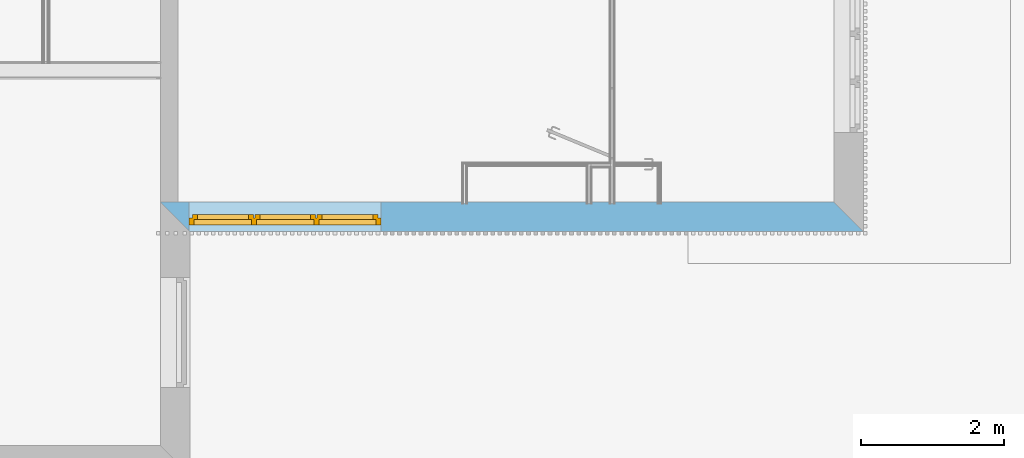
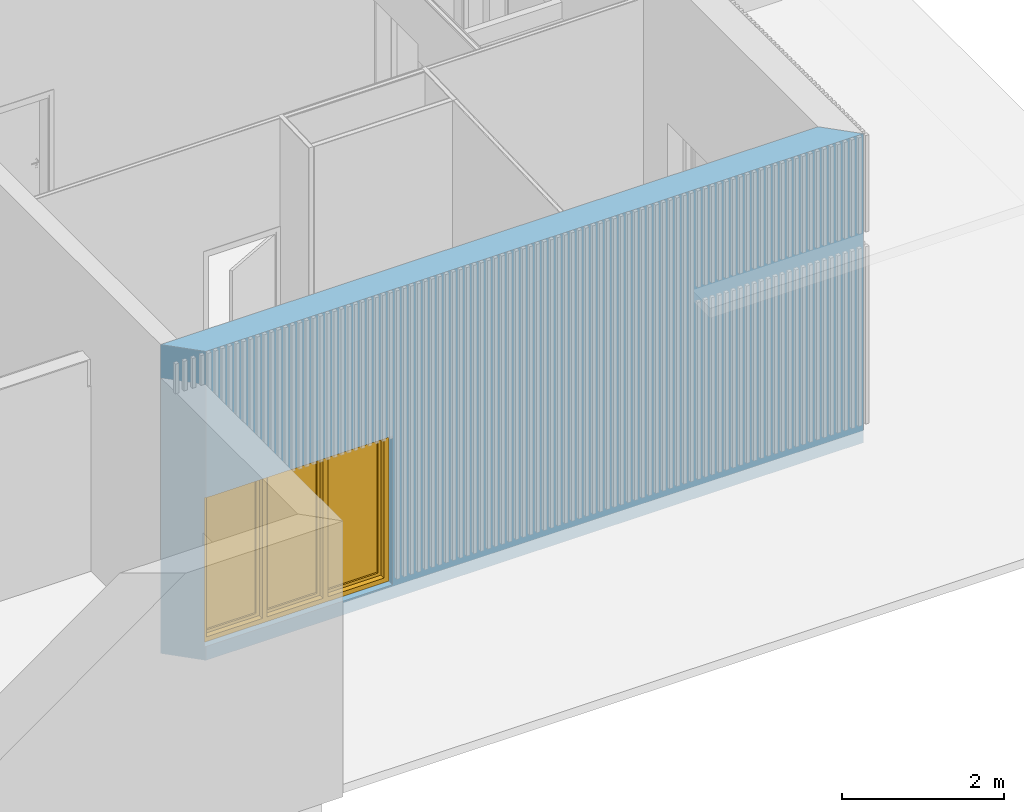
# One storey, part 8 of 34: 1 window, 1 opening, plus 1 element that does not belong to this part.
"""IFC2X3 building model written with IfcOpenShell, lengths in metres."""

from ifc_helpers import new_model, entity, si_unit, converted_unit, derived_unit, money_unit, direction, frame, origin_with_axes, origin_2d_with_axis, place, context, subcontext, project, spatial, polyline, rectangle, outline, extrude, open_shell, faceted_brep, surface_model, material, layer, layer_set, layer_usage, type_object, element, fill, save


model = new_model("IFC2X3")

# Units and contexts
model_context = context("Model", 3, precision=1e-05, world=origin_with_axes(), true_north=direction((0.0, 1.0)))
body_context = subcontext(model_context, "Body", "Model", "MODEL_VIEW")
ifc_project = project(units=[si_unit("LENGTHUNIT", "METRE"), si_unit("AREAUNIT", "SQUARE_METRE"), si_unit("VOLUMEUNIT", "CUBIC_METRE"), converted_unit("PLANEANGLEUNIT", "DEGREE", entity("IfcPlaneAngleMeasure", 0.0174532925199), si_unit("PLANEANGLEUNIT", "RADIAN"), dimensions=[0, 0, 0, 0, 0, 0, 0]), money_unit("CHF"), converted_unit("TIMEUNIT", "Year", entity("IfcTimeMeasure", 31556926.0), si_unit("TIMEUNIT", "SECOND"), dimensions=[0, 0, 1, 0, 0, 0, 0]), si_unit("MASSUNIT", "GRAM", prefix="KILO"), si_unit("THERMODYNAMICTEMPERATUREUNIT", "DEGREE_CELSIUS"), si_unit("LUMINOUSINTENSITYUNIT", "LUMEN"), si_unit("ENERGYUNIT", "JOULE", prefix="MEGA"), derived_unit("THERMALCONDUCTANCEUNIT", [(si_unit("POWERUNIT", "WATT"), 1), (si_unit("LENGTHUNIT", "METRE"), -1), (si_unit("THERMODYNAMICTEMPERATUREUNIT", "KELVIN"), -1)]), derived_unit("SPECIFICHEATCAPACITYUNIT", [(si_unit("ENERGYUNIT", "JOULE"), 1), (si_unit("MASSUNIT", "GRAM", prefix="KILO"), -1), (si_unit("THERMODYNAMICTEMPERATUREUNIT", "KELVIN"), -1)]), derived_unit("MASSDENSITYUNIT", [(si_unit("MASSUNIT", "GRAM", prefix="KILO"), 1), (si_unit("VOLUMEUNIT", "CUBIC_METRE"), -1)])], contexts=[model_context])

# Site, building, storey
site_placement = place(None, origin_with_axes())
site = spatial("IfcSite", under=ifc_project, at=site_placement, Name="Site", CompositionType="ELEMENT")
building_placement = place(site_placement, origin_with_axes())
building = spatial("IfcBuilding", under=site, at=building_placement, Name="Bâtiment", CompositionType="ELEMENT")
storey_placement = place(building_placement, origin_with_axes())
storey = spatial("IfcBuildingStorey", under=building, at=storey_placement, Name="Rez-de-chaussée", CompositionType="ELEMENT", Elevation=0.0)

# Wall, opening, window
ifc_material_1 = material(Name="Finition int - Enduit minéral")
ifc_layer_1 = layer(ifc_material_1, 0.01, ventilated="UNKNOWN")
ifc_material_2 = material(Name="Isolation - Fibres de bois")
ifc_layer_2 = layer(ifc_material_2, 0.18, ventilated="UNKNOWN")
ifc_material_3 = material(Name="Béton armé (Coulé)")
ifc_layer_3 = layer(ifc_material_3, 0.2, ventilated="UNKNOWN")
ifc_material_4 = material(Name="Finition int - Enduit plâtre")
ifc_layer_4 = layer(ifc_material_4, 0.02, ventilated="UNKNOWN")
ifc_layer_set = layer_set([ifc_layer_1, ifc_layer_2, ifc_layer_3, ifc_layer_4], Name="Mur 20cm + iso 18 + enduit")
ifc_layer_usage = layer_usage(ifc_layer_set, "AXIS2", "NEGATIVE", 0.29)
wall_type = type_object("IfcWallType", Name="Mur 20cm + iso 18 + enduit  410", PredefinedType="NOTDEFINED")
wall_placement = place(storey_placement, frame((33.7494697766, 6.46012566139, -0.21), z_axis=(0.0, 0.0, 1.0), x_axis=(-1.0, 0.0, 0.0)))
wall = element("IfcWallStandardCase", 1, at=wall_placement, inside=storey, type_object=wall_type, material=ifc_layer_usage, Name="Mur ext 20+18isolant", context=body_context, shape_type="SweptSolid", body=[
    extrude(outline(polyline([(0.12, -0.12), (9.52, -0.12), (9.11, 0.29), (-0.29, 0.29), (0.12, -0.12)])), origin_with_axes(), (0.0, 0.0, 1.0), 4.67),
])
opening_placement = place(wall_placement, frame((7.78, 0.0, 0.21), z_axis=(0.0, 0.0, 1.0), x_axis=(1.0, 0.0, 0.0)))
opening = element("IfcOpeningElement", 2, at=opening_placement, cuts=wall, Name="FENETRE-005", context=body_context, shape_type="SweptSolid", body=[
    extrude(rectangle(XDim=2.68, YDim=2.25, at=origin_2d_with_axis()), frame((0.0, 0.2, 1.125), z_axis=(0.0, 1.0, 0.0), x_axis=(-1.0, 0.0, 0.0)), (0.0, 0.0, -1.0), 0.73),
    extrude(rectangle(XDim=2.68, YDim=2.25, at=origin_2d_with_axis()), frame((0.0, 0.2, 1.125), z_axis=(0.0, -1.0, 0.0), x_axis=(-1.0, 0.0, 0.0)), (0.0, 0.0, -1.0), 0.5),
])
window_style = type_object("IfcWindowStyle", Name="Fenêtre horizontale à châssis multiples 26", ConstructionType="NOTDEFINED", OperationType="TRIPLE_PANEL_VERTICAL", ParameterTakesPrecedence=False, Sizeable=False)
window_placement = place(opening_placement, frame((1.34, 0.0, 0.0), z_axis=(0.0, 0.0, 1.0), x_axis=(-1.0, 0.0, 0.0)))
window = element("IfcWindow", 3, at=window_placement, inside=storey, type_object=window_style, Name="FENETRE-005", ObjectType="WINDOW", OverallHeight=2.25, OverallWidth=2.68, context=body_context, shape_type="SurfaceModel", body=[
    faceted_brep([(0.045, -0.1, 2.18), (0.0, -0.1, 2.18), (0.0, -0.2, 2.18), (0.07, -0.2, 2.18), (0.07, -0.125, 2.18), (0.045, -0.125, 2.18), (0.045, -0.1, 0.07), (0.0, -0.1, 0.07), (0.0, -0.2, 0.07), (0.07, -0.2, 0.07), (0.07, -0.125, 0.07), (0.045, -0.125, 0.07)], [[[0, 1, 2, 3, 4, 5]], [[6, 7, 1, 0]], [[1, 7, 8, 2]], [[2, 8, 9, 3]], [[4, 3, 9, 10]], [[10, 11, 5, 4]], [[5, 11, 6, 0]], [[11, 10, 9, 8, 7, 6]]]),
    faceted_brep([(2.61, -0.125, 2.18), (2.61, -0.2, 2.18), (2.68, -0.2, 2.18), (2.68, -0.1, 2.18), (2.635, -0.1, 2.18), (2.635, -0.125, 2.18), (2.61, -0.125, 0.07), (2.61, -0.2, 0.07), (2.68, -0.2, 0.07), (2.68, -0.1, 0.07), (2.635, -0.1, 0.07), (2.635, -0.125, 0.07)], [[[0, 1, 2, 3, 4, 5]], [[6, 7, 1, 0]], [[8, 2, 1, 7]], [[9, 3, 2, 8]], [[4, 3, 9, 10]], [[10, 11, 5, 4]], [[5, 11, 6, 0]], [[11, 10, 9, 8, 7, 6]]]),
    faceted_brep([(0.915, -0.1, 2.18), (0.895, -0.1, 2.18), (0.895, -0.1, 2.205), (0.045, -0.1, 2.205), (0.045, -0.1, 2.18), (0.0, -0.1, 2.18), (0.0, -0.1, 2.25), (2.68, -0.1, 2.25), (2.68, -0.1, 2.18), (2.635, -0.1, 2.18), (2.635, -0.1, 2.205), (1.785, -0.1, 2.205), (1.785, -0.1, 2.18), (1.765, -0.1, 2.18), (1.765, -0.1, 2.205), (0.915, -0.1, 2.205), (0.915, -0.125, 2.18), (0.94, -0.125, 2.18), (0.94, -0.2, 2.18), (0.87, -0.2, 2.18), (0.87, -0.125, 2.18), (0.895, -0.125, 2.18), (0.895, -0.125, 2.205), (0.045, -0.125, 2.205), (0.045, -0.125, 2.18), (0.07, -0.125, 2.18), (0.07, -0.2, 2.18), (0.0, -0.2, 2.18), (0.0, -0.2, 2.25), (2.68, -0.2, 2.25), (2.68, -0.2, 2.18), (2.635, -0.125, 2.18), (2.61, -0.2, 2.18), (2.61, -0.125, 2.18), (2.635, -0.125, 2.205), (1.785, -0.125, 2.205), (1.785, -0.125, 2.18), (1.765, -0.125, 2.18), (1.81, -0.125, 2.18), (1.81, -0.2, 2.18), (1.74, -0.2, 2.18), (1.74, -0.125, 2.18), (1.765, -0.125, 2.205), (0.915, -0.125, 2.205)], [[[0, 1, 2, 3, 4, 5, 6, 7, 8, 9, 10, 11, 12, 13, 14, 15]], [[16, 17, 18, 19, 20, 21, 1, 0]], [[1, 21, 22, 2]], [[2, 22, 23, 3]], [[3, 23, 24, 4]], [[24, 25, 26, 27, 5, 4]], [[6, 5, 27, 28]], [[7, 6, 28, 29]], [[8, 7, 29, 30]], [[31, 9, 8, 30, 32, 33]], [[9, 31, 34, 10]], [[10, 34, 35, 11]], [[11, 35, 36, 12]], [[37, 13, 12, 36, 38, 39, 40, 41]], [[13, 37, 42, 14]], [[14, 42, 43, 15]], [[15, 43, 16, 0]], [[41, 17, 16, 43, 42, 37]], [[41, 40, 18, 17]], [[30, 29, 28, 27, 26, 19, 18, 40, 39, 32]], [[20, 19, 26, 25]], [[20, 25, 24, 23, 22, 21]], [[33, 32, 39, 38]], [[33, 38, 36, 35, 34, 31]]]),
    faceted_brep([(1.74, -0.125, 0.07), (1.74, -0.2, 0.07), (1.81, -0.2, 0.07), (1.81, -0.125, 0.07), (1.785, -0.125, 0.07), (1.785, -0.1, 0.07), (1.765, -0.1, 0.07), (1.765, -0.125, 0.07), (0.94, -0.125, 0.07), (0.94, -0.2, 0.07), (0.87, -0.2, 0.07), (0.07, -0.2, 0.07), (0.0, -0.2, 0.07), (0.0, -0.2, 0.0), (2.68, -0.2, 0.0), (2.68, -0.2, 0.07), (2.61, -0.2, 0.07), (2.61, -0.125, 0.07), (2.635, -0.125, 0.07), (2.635, -0.125, 0.045), (1.785, -0.125, 0.045), (1.785, -0.1, 0.045), (0.915, -0.1, 0.045), (1.765, -0.1, 0.045), (2.635, -0.1, 0.045), (2.635, -0.1, 0.07), (2.68, -0.1, 0.07), (2.68, -0.1, 0.0), (0.0, -0.1, 0.0), (0.0, -0.1, 0.07), (0.045, -0.1, 0.07), (0.045, -0.1, 0.045), (0.895, -0.1, 0.045), (0.895, -0.1, 0.07), (0.915, -0.1, 0.07), (1.765, -0.125, 0.045), (0.915, -0.125, 0.045), (0.915, -0.125, 0.07), (0.895, -0.125, 0.07), (0.87, -0.125, 0.07), (0.07, -0.125, 0.07), (0.045, -0.125, 0.07), (0.045, -0.125, 0.045), (0.895, -0.125, 0.045)], [[[0, 1, 2, 3, 4, 5, 6, 7]], [[8, 9, 1, 0]], [[1, 9, 10, 11, 12, 13, 14, 15, 16, 2]], [[3, 2, 16, 17]], [[18, 19, 20, 4, 3, 17]], [[4, 20, 21, 5]], [[22, 23, 6, 5, 21, 24, 25, 26, 27, 28, 29, 30, 31, 32, 33, 34]], [[23, 35, 7, 6]], [[7, 35, 36, 37, 8, 0]], [[37, 34, 33, 38, 39, 10, 9, 8]], [[40, 11, 10, 39]], [[41, 30, 29, 12, 11, 40]], [[29, 28, 13, 12]], [[28, 27, 14, 13]], [[27, 26, 15, 14]], [[17, 16, 15, 26, 25, 18]], [[24, 19, 18, 25]], [[21, 20, 19, 24]], [[22, 36, 35, 23]], [[41, 42, 31, 30]], [[31, 42, 43, 32]], [[32, 43, 38, 33]], [[37, 36, 22, 34]], [[38, 43, 42, 41, 40, 39]]]),
    faceted_brep([(0.915, -0.1, 2.18), (0.895, -0.1, 2.18), (0.895, -0.125, 2.18), (0.87, -0.125, 2.18), (0.87, -0.2, 2.18), (0.94, -0.2, 2.18), (0.94, -0.125, 2.18), (0.915, -0.125, 2.18), (0.915, -0.1, 0.07), (0.895, -0.1, 0.07), (0.895, -0.125, 0.07), (0.87, -0.125, 0.07), (0.87, -0.2, 0.07), (0.94, -0.2, 0.07), (0.94, -0.125, 0.07), (0.915, -0.125, 0.07)], [[[0, 1, 2, 3, 4, 5, 6, 7]], [[8, 9, 1, 0]], [[9, 10, 2, 1]], [[2, 10, 11, 3]], [[11, 12, 4, 3]], [[5, 4, 12, 13]], [[6, 5, 13, 14]], [[14, 15, 7, 6]], [[7, 15, 8, 0]], [[15, 14, 13, 12, 11, 10, 9, 8]]]),
    faceted_brep([(1.74, -0.125, 2.18), (1.74, -0.2, 2.18), (1.81, -0.2, 2.18), (1.81, -0.125, 2.18), (1.785, -0.125, 2.18), (1.785, -0.1, 2.18), (1.765, -0.1, 2.18), (1.765, -0.125, 2.18), (1.74, -0.125, 0.07), (1.74, -0.2, 0.07), (1.81, -0.2, 0.07), (1.81, -0.125, 0.07), (1.785, -0.125, 0.07), (1.785, -0.1, 0.07), (1.765, -0.1, 0.07), (1.765, -0.125, 0.07)], [[[0, 1, 2, 3, 4, 5, 6, 7]], [[8, 9, 1, 0]], [[2, 1, 9, 10]], [[3, 2, 10, 11]], [[11, 12, 4, 3]], [[4, 12, 13, 5]], [[6, 5, 13, 14]], [[14, 15, 7, 6]], [[7, 15, 8, 0]], [[15, 14, 13, 12, 11, 10, 9, 8]]]),
    faceted_brep([(0.115, -0.125, 2.135), (0.115, -0.055, 2.135), (0.045, -0.055, 2.135), (0.045, -0.125, 2.135), (0.115, -0.125, 0.115), (0.115, -0.055, 0.115), (0.045, -0.055, 0.115), (0.045, -0.125, 0.115)], [[[0, 1, 2, 3]], [[4, 5, 1, 0]], [[1, 5, 6, 2]], [[3, 2, 6, 7]], [[0, 3, 7, 4]], [[7, 6, 5, 4]]]),
    faceted_brep([(0.825, -0.125, 0.115), (0.825, -0.055, 0.115), (0.895, -0.055, 0.115), (0.895, -0.125, 0.115), (0.825, -0.125, 2.135), (0.825, -0.055, 2.135), (0.895, -0.055, 2.135), (0.895, -0.125, 2.135)], [[[0, 1, 2, 3]], [[4, 5, 1, 0]], [[1, 5, 6, 2]], [[3, 2, 6, 7]], [[0, 3, 7, 4]], [[7, 6, 5, 4]]]),
    faceted_brep([(0.895, -0.125, 0.045), (0.895, -0.055, 0.045), (0.895, -0.055, 0.115), (0.895, -0.125, 0.115), (0.045, -0.125, 0.045), (0.045, -0.055, 0.045), (0.045, -0.055, 0.115), (0.115, -0.055, 0.115), (0.825, -0.055, 0.115), (0.825, -0.125, 0.115), (0.115, -0.125, 0.115), (0.045, -0.125, 0.115)], [[[0, 1, 2, 3]], [[4, 5, 1, 0]], [[1, 5, 6, 7, 8, 2]], [[3, 2, 8, 9]], [[0, 3, 9, 10, 11, 4]], [[11, 6, 5, 4]], [[10, 7, 6, 11]], [[9, 8, 7, 10]]]),
    faceted_brep([(0.045, -0.125, 2.205), (0.045, -0.055, 2.205), (0.045, -0.055, 2.135), (0.045, -0.125, 2.135), (0.895, -0.125, 2.205), (0.895, -0.055, 2.205), (0.895, -0.055, 2.135), (0.825, -0.055, 2.135), (0.115, -0.055, 2.135), (0.115, -0.125, 2.135), (0.825, -0.125, 2.135), (0.895, -0.125, 2.135)], [[[0, 1, 2, 3]], [[4, 5, 1, 0]], [[1, 5, 6, 7, 8, 2]], [[3, 2, 8, 9]], [[0, 3, 9, 10, 11, 4]], [[11, 6, 5, 4]], [[10, 7, 6, 11]], [[9, 8, 7, 10]]]),
    surface_model("IfcShellBasedSurfaceModel", [(0.115, -0.1, 0.115), (0.825, -0.1, 0.115), (0.825, -0.1, 2.135), (0.115, -0.1, 2.135)], [open_shell([[[0, 1, 2, 3]]])]),
    surface_model("IfcShellBasedSurfaceModel", [(0.115, -0.08, 0.115), (0.115, -0.08, 2.135), (0.825, -0.08, 2.135), (0.825, -0.08, 0.115)], [open_shell([[[0, 1, 2, 3]]])]),
    faceted_brep([(0.985, -0.125, 2.135), (0.985, -0.055, 2.135), (0.915, -0.055, 2.135), (0.915, -0.125, 2.135), (0.985, -0.125, 0.115), (0.985, -0.055, 0.115), (0.915, -0.055, 0.115), (0.915, -0.125, 0.115)], [[[0, 1, 2, 3]], [[4, 5, 1, 0]], [[1, 5, 6, 2]], [[3, 2, 6, 7]], [[0, 3, 7, 4]], [[7, 6, 5, 4]]]),
    faceted_brep([(1.695, -0.125, 0.115), (1.695, -0.055, 0.115), (1.765, -0.055, 0.115), (1.765, -0.125, 0.115), (1.695, -0.125, 2.135), (1.695, -0.055, 2.135), (1.765, -0.055, 2.135), (1.765, -0.125, 2.135)], [[[0, 1, 2, 3]], [[4, 5, 1, 0]], [[1, 5, 6, 2]], [[3, 2, 6, 7]], [[0, 3, 7, 4]], [[7, 6, 5, 4]]]),
    faceted_brep([(1.765, -0.125, 0.045), (1.765, -0.055, 0.045), (1.765, -0.055, 0.115), (1.765, -0.125, 0.115), (0.915, -0.125, 0.045), (0.915, -0.055, 0.045), (0.915, -0.055, 0.115), (0.985, -0.055, 0.115), (1.695, -0.055, 0.115), (1.695, -0.125, 0.115), (0.985, -0.125, 0.115), (0.915, -0.125, 0.115)], [[[0, 1, 2, 3]], [[4, 5, 1, 0]], [[1, 5, 6, 7, 8, 2]], [[3, 2, 8, 9]], [[0, 3, 9, 10, 11, 4]], [[11, 6, 5, 4]], [[10, 7, 6, 11]], [[9, 8, 7, 10]]]),
    faceted_brep([(0.915, -0.125, 2.205), (0.915, -0.055, 2.205), (0.915, -0.055, 2.135), (0.915, -0.125, 2.135), (1.765, -0.125, 2.205), (1.765, -0.055, 2.205), (1.765, -0.055, 2.135), (1.695, -0.055, 2.135), (0.985, -0.055, 2.135), (0.985, -0.125, 2.135), (1.695, -0.125, 2.135), (1.765, -0.125, 2.135)], [[[0, 1, 2, 3]], [[4, 5, 1, 0]], [[1, 5, 6, 7, 8, 2]], [[3, 2, 8, 9]], [[0, 3, 9, 10, 11, 4]], [[11, 6, 5, 4]], [[10, 7, 6, 11]], [[9, 8, 7, 10]]]),
    surface_model("IfcShellBasedSurfaceModel", [(0.985, -0.1, 0.115), (1.695, -0.1, 0.115), (1.695, -0.1, 2.135), (0.985, -0.1, 2.135)], [open_shell([[[0, 1, 2, 3]]])]),
    surface_model("IfcShellBasedSurfaceModel", [(0.985, -0.08, 0.115), (0.985, -0.08, 2.135), (1.695, -0.08, 2.135), (1.695, -0.08, 0.115)], [open_shell([[[0, 1, 2, 3]]])]),
    faceted_brep([(1.855, -0.125, 2.135), (1.855, -0.055, 2.135), (1.785, -0.055, 2.135), (1.785, -0.125, 2.135), (1.855, -0.125, 0.115), (1.855, -0.055, 0.115), (1.785, -0.055, 0.115), (1.785, -0.125, 0.115)], [[[0, 1, 2, 3]], [[4, 5, 1, 0]], [[1, 5, 6, 2]], [[3, 2, 6, 7]], [[0, 3, 7, 4]], [[7, 6, 5, 4]]]),
    faceted_brep([(2.565, -0.125, 0.115), (2.565, -0.055, 0.115), (2.635, -0.055, 0.115), (2.635, -0.125, 0.115), (2.565, -0.125, 2.135), (2.565, -0.055, 2.135), (2.635, -0.055, 2.135), (2.635, -0.125, 2.135)], [[[0, 1, 2, 3]], [[4, 5, 1, 0]], [[1, 5, 6, 2]], [[3, 2, 6, 7]], [[0, 3, 7, 4]], [[7, 6, 5, 4]]]),
    faceted_brep([(2.635, -0.125, 0.045), (2.635, -0.055, 0.045), (2.635, -0.055, 0.115), (2.635, -0.125, 0.115), (1.785, -0.125, 0.045), (1.785, -0.055, 0.045), (1.785, -0.055, 0.115), (1.855, -0.055, 0.115), (2.565, -0.055, 0.115), (2.565, -0.125, 0.115), (1.855, -0.125, 0.115), (1.785, -0.125, 0.115)], [[[0, 1, 2, 3]], [[4, 5, 1, 0]], [[1, 5, 6, 7, 8, 2]], [[3, 2, 8, 9]], [[0, 3, 9, 10, 11, 4]], [[11, 6, 5, 4]], [[10, 7, 6, 11]], [[9, 8, 7, 10]]]),
    faceted_brep([(1.785, -0.125, 2.205), (1.785, -0.055, 2.205), (1.785, -0.055, 2.135), (1.785, -0.125, 2.135), (2.635, -0.125, 2.205), (2.635, -0.055, 2.205), (2.635, -0.055, 2.135), (2.565, -0.055, 2.135), (1.855, -0.055, 2.135), (1.855, -0.125, 2.135), (2.565, -0.125, 2.135), (2.635, -0.125, 2.135)], [[[0, 1, 2, 3]], [[4, 5, 1, 0]], [[1, 5, 6, 7, 8, 2]], [[3, 2, 8, 9]], [[0, 3, 9, 10, 11, 4]], [[11, 6, 5, 4]], [[10, 7, 6, 11]], [[9, 8, 7, 10]]]),
    surface_model("IfcShellBasedSurfaceModel", [(1.855, -0.1, 0.115), (2.565, -0.1, 0.115), (2.565, -0.1, 2.135), (1.855, -0.1, 2.135)], [open_shell([[[0, 1, 2, 3]]])]),
    surface_model("IfcShellBasedSurfaceModel", [(1.855, -0.08, 0.115), (1.855, -0.08, 2.135), (2.565, -0.08, 2.135), (2.565, -0.08, 0.115)], [open_shell([[[0, 1, 2, 3]]])]),
])
fill(opening, window)

save(model, "model.ifc")
